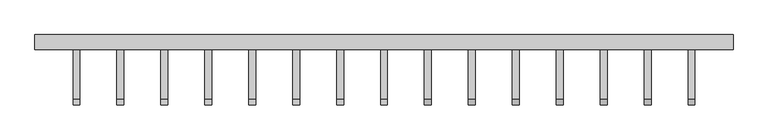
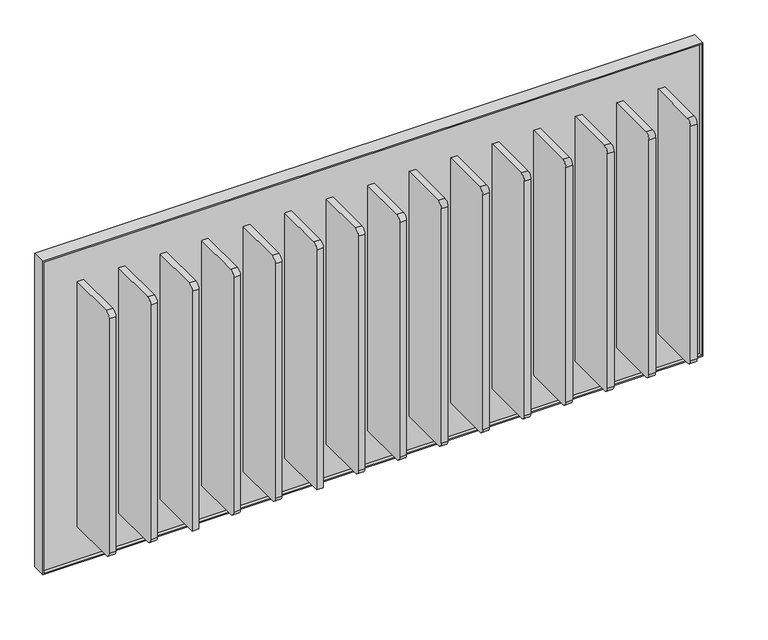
"""IFC4 building model written with IfcOpenShell, lengths in millimetres: proxy geometry, Frame_Cascade 10.3dm."""

from ifc_helpers import new_model, si_unit, point, frame, frame_2d, origin, place, context, project, spatial, polyline, circle_curve, trimmed, segment, composite_curve, outline, extrude, source, transform, mapped, element, save


def generic_models_4b6f71dd(model_context):
    return source(origin(), model_context, "Body", "SweptSolid", [
        extrude(outline(polyline([(2033.9814902, 114.2568681), (833.9814902, 114.2568681), (833.9814902, 126.2568681), (2033.9814902, 126.2568681), (2033.9814902, 114.2568681)])), frame((0.0, 0.0, 3178.6541345), z_axis=(0.0, 0.0, 1.0), x_axis=(1.0, 0.0, 0.0)), (0.0, 0.0, 1.0), 600.0),
        extrude(outline(polyline([(3176.6541345, 2035.9814902), (3780.6541345, 2035.9814902), (3780.6541345, 831.9814902), (3176.6541345, 831.9814902), (3176.6541345, 2035.9814902)]), holes=[polyline([(3178.6541345, 2033.9814902), (3178.6541345, 833.9814902), (3778.6541345, 833.9814902), (3778.6541345, 2033.9814902), (3178.6541345, 2033.9814902)])]), frame((0.0, 107.5568681, 0.0), z_axis=(0.0, 1.0, 0.0), x_axis=(0.0, 0.0, 1.0)), (0.0, 0.0, 1.0), 25.4),
        extrude(outline(composite_curve([segment(trimmed(circle_curve(frame_2d((21.9568681, 3252.4041345)), 10.0), [point((21.9568681, 3242.4041345))], [point((11.9568681, 3252.4041345))], False, "CARTESIAN"), True, "CONTINUOUS"), segment(polyline([(11.9568681, 3252.4041345), (11.9568681, 3704.9041345)]), True, "CONTINUOUS"), segment(trimmed(circle_curve(frame_2d((21.9568681, 3704.9041345)), 10.0), [point((11.9568681, 3704.9041345))], [point((21.9568681, 3714.9041345))], False, "CARTESIAN"), True, "CONTINUOUS"), segment(polyline([(21.9568681, 3714.9041345), (114.2568681, 3714.9041345), (114.2568681, 3242.4041345), (21.9568681, 3242.4041345)]), True, "CONTINUOUS")], self_intersect=False)), frame((1958.2314902, 0.0, 0.0), z_axis=(1.0, 0.0, 0.0), x_axis=(0.0, 1.0, 0.0)), (0.0, 0.0, 1.0), 12.0),
        extrude(outline(composite_curve([segment(trimmed(circle_curve(frame_2d((21.9568681, 3252.4041345)), 10.0), [point((21.9568681, 3242.4041345))], [point((11.9568681, 3252.4041345))], False, "CARTESIAN"), True, "CONTINUOUS"), segment(polyline([(11.9568681, 3252.4041345), (11.9568681, 3704.9041345)]), True, "CONTINUOUS"), segment(trimmed(circle_curve(frame_2d((21.9568681, 3704.9041345)), 10.0), [point((11.9568681, 3704.9041345))], [point((21.9568681, 3714.9041345))], False, "CARTESIAN"), True, "CONTINUOUS"), segment(polyline([(21.9568681, 3714.9041345), (114.2568681, 3714.9041345), (114.2568681, 3242.4041345), (21.9568681, 3242.4041345)]), True, "CONTINUOUS")], self_intersect=False)), frame((1882.4814902, 0.0, 0.0), z_axis=(1.0, 0.0, 0.0), x_axis=(0.0, 1.0, 0.0)), (0.0, 0.0, 1.0), 12.0),
        extrude(outline(composite_curve([segment(trimmed(circle_curve(frame_2d((21.9568681, 3252.4041345)), 10.0), [point((21.9568681, 3242.4041345))], [point((11.9568681, 3252.4041345))], False, "CARTESIAN"), True, "CONTINUOUS"), segment(polyline([(11.9568681, 3252.4041345), (11.9568681, 3704.9041345)]), True, "CONTINUOUS"), segment(trimmed(circle_curve(frame_2d((21.9568681, 3704.9041345)), 10.0), [point((11.9568681, 3704.9041345))], [point((21.9568681, 3714.9041345))], False, "CARTESIAN"), True, "CONTINUOUS"), segment(polyline([(21.9568681, 3714.9041345), (114.2568681, 3714.9041345), (114.2568681, 3242.4041345), (21.9568681, 3242.4041345)]), True, "CONTINUOUS")], self_intersect=False)), frame((1579.4814902, 0.0, 0.0), z_axis=(1.0, 0.0, 0.0), x_axis=(0.0, 1.0, 0.0)), (0.0, 0.0, 1.0), 12.0),
        extrude(outline(composite_curve([segment(polyline([(21.9568681, 3714.9041345), (114.2568681, 3714.9041345), (114.2568681, 3242.4041345), (11.9568681, 3242.4041345), (11.9568681, 3704.9041345)]), True, "CONTINUOUS"), segment(trimmed(circle_curve(frame_2d((21.9568681, 3704.9041345)), 10.0), [point((11.9568681, 3704.9041345))], [point((21.9568681, 3714.9041345))], False, "CARTESIAN"), True, "CONTINUOUS")], self_intersect=False)), frame((1276.4814902, 0.0, 0.0), z_axis=(1.0, 0.0, 0.0), x_axis=(0.0, 1.0, 0.0)), (0.0, 0.0, 1.0), 12.0),
        extrude(outline(composite_curve([segment(trimmed(circle_curve(frame_2d((21.9568681, 3252.4041345)), 10.0), [point((21.9568681, 3242.4041345))], [point((11.9568681, 3252.4041345))], False, "CARTESIAN"), True, "CONTINUOUS"), segment(polyline([(11.9568681, 3252.4041345), (11.9568681, 3704.9041345)]), True, "CONTINUOUS"), segment(trimmed(circle_curve(frame_2d((21.9568681, 3704.9041345)), 10.0), [point((11.9568681, 3704.9041345))], [point((21.9568681, 3714.9041345))], False, "CARTESIAN"), True, "CONTINUOUS"), segment(polyline([(21.9568681, 3714.9041345), (114.2568681, 3714.9041345), (114.2568681, 3242.4041345), (21.9568681, 3242.4041345)]), True, "CONTINUOUS")], self_intersect=False)), frame((1806.7314902, 0.0, 0.0), z_axis=(1.0, 0.0, 0.0), x_axis=(0.0, 1.0, 0.0)), (0.0, 0.0, 1.0), 12.0),
        extrude(outline(composite_curve([segment(polyline([(21.9568681, 3714.9041345), (114.2568681, 3714.9041345), (114.2568681, 3242.4041345), (21.9568681, 3242.4041345)]), True, "CONTINUOUS"), segment(trimmed(circle_curve(frame_2d((21.9568681, 3252.4041345)), 10.0), [point((21.9568681, 3242.4041345))], [point((11.9568681, 3252.4041345))], False, "CARTESIAN"), True, "CONTINUOUS"), segment(polyline([(11.9568681, 3252.4041345), (11.9568681, 3704.9041345)]), True, "CONTINUOUS"), segment(trimmed(circle_curve(frame_2d((21.9568681, 3704.9041345)), 10.0), [point((11.9568681, 3704.9041345))], [point((21.9568681, 3714.9041345))], False, "CARTESIAN"), True, "CONTINUOUS")], self_intersect=False)), frame((1200.7314902, 0.0, 0.0), z_axis=(1.0, 0.0, 0.0), x_axis=(0.0, 1.0, 0.0)), (0.0, 0.0, 1.0), 12.0),
        extrude(outline(composite_curve([segment(polyline([(21.9568681, 3714.9041345), (114.2568681, 3714.9041345), (114.2568681, 3242.4041345), (21.9568681, 3242.4041345)]), True, "CONTINUOUS"), segment(trimmed(circle_curve(frame_2d((21.9568681, 3252.4041345)), 10.0), [point((21.9568681, 3242.4041345))], [point((11.9568681, 3252.4041345))], False, "CARTESIAN"), True, "CONTINUOUS"), segment(polyline([(11.9568681, 3252.4041345), (11.9568681, 3704.9041345)]), True, "CONTINUOUS"), segment(trimmed(circle_curve(frame_2d((21.9568681, 3704.9041345)), 10.0), [point((11.9568681, 3704.9041345))], [point((21.9568681, 3714.9041345))], False, "CARTESIAN"), True, "CONTINUOUS")], self_intersect=False)), frame((897.7314902, 0.0, 0.0), z_axis=(1.0, 0.0, 0.0), x_axis=(0.0, 1.0, 0.0)), (0.0, 0.0, 1.0), 12.0),
        extrude(outline(composite_curve([segment(polyline([(21.9568681, 3714.9041345), (114.2568681, 3714.9041345), (114.2568681, 3242.4041345), (21.9568681, 3242.4041345)]), True, "CONTINUOUS"), segment(trimmed(circle_curve(frame_2d((21.9568681, 3252.4041345)), 10.0), [point((21.9568681, 3242.4041345))], [point((11.9568681, 3252.4041345))], False, "CARTESIAN"), True, "CONTINUOUS"), segment(polyline([(11.9568681, 3252.4041345), (11.9568681, 3704.9041345)]), True, "CONTINUOUS"), segment(trimmed(circle_curve(frame_2d((21.9568681, 3704.9041345)), 10.0), [point((11.9568681, 3704.9041345))], [point((21.9568681, 3714.9041345))], False, "CARTESIAN"), True, "CONTINUOUS")], self_intersect=False)), frame((1352.2314902, 0.0, 0.0), z_axis=(1.0, 0.0, 0.0), x_axis=(0.0, 1.0, 0.0)), (0.0, 0.0, 1.0), 12.0),
        extrude(outline(composite_curve([segment(trimmed(circle_curve(frame_2d((21.9568681, 3252.4041345)), 10.0), [point((21.9568681, 3242.4041345))], [point((11.9568681, 3252.4041345))], False, "CARTESIAN"), True, "CONTINUOUS"), segment(polyline([(11.9568681, 3252.4041345), (11.9568681, 3704.9041345)]), True, "CONTINUOUS"), segment(trimmed(circle_curve(frame_2d((21.9568681, 3704.9041345)), 10.0), [point((11.9568681, 3704.9041345))], [point((21.9568681, 3714.9041345))], False, "CARTESIAN"), True, "CONTINUOUS"), segment(polyline([(21.9568681, 3714.9041345), (114.2568681, 3714.9041345), (114.2568681, 3242.4041345), (21.9568681, 3242.4041345)]), True, "CONTINUOUS")], self_intersect=False)), frame((1503.7314902, 0.0, 0.0), z_axis=(1.0, 0.0, 0.0), x_axis=(0.0, 1.0, 0.0)), (0.0, 0.0, 1.0), 12.0),
        extrude(outline(composite_curve([segment(polyline([(21.9568681, 3714.9041345), (114.2568681, 3714.9041345), (114.2568681, 3242.4041345), (11.9568681, 3242.4041345), (11.9568681, 3704.9041345)]), True, "CONTINUOUS"), segment(trimmed(circle_curve(frame_2d((21.9568681, 3704.9041345)), 10.0), [point((11.9568681, 3704.9041345))], [point((21.9568681, 3714.9041345))], False, "CARTESIAN"), True, "CONTINUOUS")], self_intersect=False)), frame((1049.2314902, 0.0, 0.0), z_axis=(1.0, 0.0, 0.0), x_axis=(0.0, 1.0, 0.0)), (0.0, 0.0, 1.0), 12.0),
        extrude(outline(composite_curve([segment(polyline([(21.9568681, 3714.9041345), (114.2568681, 3714.9041345), (114.2568681, 3242.4041345), (21.9568681, 3242.4041345)]), True, "CONTINUOUS"), segment(trimmed(circle_curve(frame_2d((21.9568681, 3252.4041345)), 10.0), [point((21.9568681, 3242.4041345))], [point((11.9568681, 3252.4041345))], False, "CARTESIAN"), True, "CONTINUOUS"), segment(polyline([(11.9568681, 3252.4041345), (11.9568681, 3704.9041345)]), True, "CONTINUOUS"), segment(trimmed(circle_curve(frame_2d((21.9568681, 3704.9041345)), 10.0), [point((11.9568681, 3704.9041345))], [point((21.9568681, 3714.9041345))], False, "CARTESIAN"), True, "CONTINUOUS")], self_intersect=False)), frame((1124.9814902, 0.0, 0.0), z_axis=(1.0, 0.0, 0.0), x_axis=(0.0, 1.0, 0.0)), (0.0, 0.0, 1.0), 12.0),
        extrude(outline(composite_curve([segment(polyline([(21.9568681, 3714.9041345), (114.2568681, 3714.9041345), (114.2568681, 3242.4041345), (21.9568681, 3242.4041345)]), True, "CONTINUOUS"), segment(trimmed(circle_curve(frame_2d((21.9568681, 3252.4041345)), 10.0), [point((21.9568681, 3242.4041345))], [point((11.9568681, 3252.4041345))], False, "CARTESIAN"), True, "CONTINUOUS"), segment(polyline([(11.9568681, 3252.4041345), (11.9568681, 3704.9041345)]), True, "CONTINUOUS"), segment(trimmed(circle_curve(frame_2d((21.9568681, 3704.9041345)), 10.0), [point((11.9568681, 3704.9041345))], [point((21.9568681, 3714.9041345))], False, "CARTESIAN"), True, "CONTINUOUS")], self_intersect=False)), frame((973.4814902, 0.0, 0.0), z_axis=(1.0, 0.0, 0.0), x_axis=(0.0, 1.0, 0.0)), (0.0, 0.0, 1.0), 12.0),
        extrude(outline(composite_curve([segment(trimmed(circle_curve(frame_2d((21.9568681, 3252.4041345)), 10.0), [point((21.9568681, 3242.4041345))], [point((11.9568681, 3252.4041345))], False, "CARTESIAN"), True, "CONTINUOUS"), segment(polyline([(11.9568681, 3252.4041345), (11.9568681, 3704.9041345)]), True, "CONTINUOUS"), segment(trimmed(circle_curve(frame_2d((21.9568681, 3704.9041345)), 10.0), [point((11.9568681, 3704.9041345))], [point((21.9568681, 3714.9041345))], False, "CARTESIAN"), True, "CONTINUOUS"), segment(polyline([(21.9568681, 3714.9041345), (114.2568681, 3714.9041345), (114.2568681, 3242.4041345), (21.9568681, 3242.4041345)]), True, "CONTINUOUS")], self_intersect=False)), frame((1730.9814902, 0.0, 0.0), z_axis=(1.0, 0.0, 0.0), x_axis=(0.0, 1.0, 0.0)), (0.0, 0.0, 1.0), 12.0),
        extrude(outline(composite_curve([segment(trimmed(circle_curve(frame_2d((21.9568681, 3252.4041345)), 10.0), [point((21.9568681, 3242.4041345))], [point((11.9568681, 3252.4041345))], False, "CARTESIAN"), True, "CONTINUOUS"), segment(polyline([(11.9568681, 3252.4041345), (11.9568681, 3704.9041345)]), True, "CONTINUOUS"), segment(trimmed(circle_curve(frame_2d((21.9568681, 3704.9041345)), 10.0), [point((11.9568681, 3704.9041345))], [point((21.9568681, 3714.9041345))], False, "CARTESIAN"), True, "CONTINUOUS"), segment(polyline([(21.9568681, 3714.9041345), (114.2568681, 3714.9041345), (114.2568681, 3242.4041345), (21.9568681, 3242.4041345)]), True, "CONTINUOUS")], self_intersect=False)), frame((1655.2314902, 0.0, 0.0), z_axis=(1.0, 0.0, 0.0), x_axis=(0.0, 1.0, 0.0)), (0.0, 0.0, 1.0), 12.0),
        extrude(outline(composite_curve([segment(polyline([(21.9568681, 3714.9041345), (114.2568681, 3714.9041345), (114.2568681, 3242.4041345), (21.9568681, 3242.4041345)]), True, "CONTINUOUS"), segment(trimmed(circle_curve(frame_2d((21.9568681, 3252.4041345)), 10.0), [point((21.9568681, 3242.4041345))], [point((11.9568681, 3252.4041345))], False, "CARTESIAN"), True, "CONTINUOUS"), segment(polyline([(11.9568681, 3252.4041345), (11.9568681, 3704.9041345)]), True, "CONTINUOUS"), segment(trimmed(circle_curve(frame_2d((21.9568681, 3704.9041345)), 10.0), [point((11.9568681, 3704.9041345))], [point((21.9568681, 3714.9041345))], False, "CARTESIAN"), True, "CONTINUOUS")], self_intersect=False)), frame((1427.9814902, 0.0, 0.0), z_axis=(1.0, 0.0, 0.0), x_axis=(0.0, 1.0, 0.0)), (0.0, 0.0, 1.0), 12.0),
    ])


if __name__ == "__main__":
    model = new_model("IFC4")
    model_context = context("Model", 3, world=origin())
    ifc_project = project(units=[si_unit("LENGTHUNIT", "METRE", prefix="MILLI")], contexts=[model_context])
    site = spatial("IfcSite", under=ifc_project)
    building = spatial("IfcBuilding", under=site)
    placement = place(None, origin())
    generic_models_shape = generic_models_4b6f71dd(model_context)
    element("IfcBuildingElementProxy", 1, Name="Frame_Cascade 10.3dm", ObjectType="Frame_Cascade 10.3dm", at=placement, inside=building, context=model_context, shape_type="MappedRepresentation", body=[
        mapped(generic_models_shape, transform((0.0, 0.0, 0.0), x_axis=(1.0, 0.0, 0.0), y_axis=(0.0, 1.0, 0.0), z_axis=(0.0, 0.0, 1.0))),
    ])
    save(model, "model.ifc")
